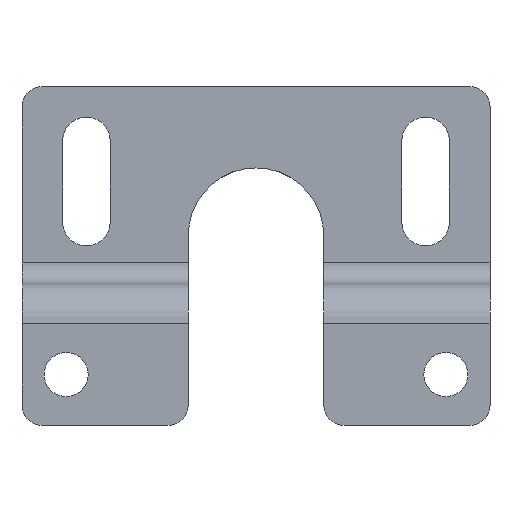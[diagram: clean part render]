
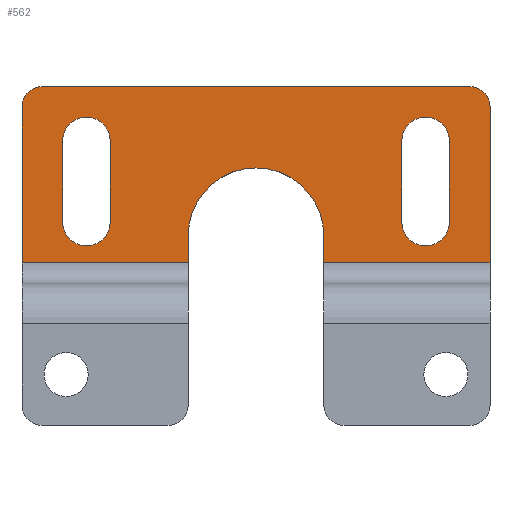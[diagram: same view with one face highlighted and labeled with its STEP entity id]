
A CAD part, top view. The second image highlights one B-rep face of the part: STEP entity #562.
In plain terms, the highlighted planar face has unit normal (0, 0, 1).
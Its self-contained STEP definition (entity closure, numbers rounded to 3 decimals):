
#384=CARTESIAN_POINT('',(31.5,29.,-14.0));
#385=VERTEX_POINT('',#384);
#392=CARTESIAN_POINT('',(34.5,26.,-14.0));
#393=VERTEX_POINT('',#392);
#394=CARTESIAN_POINT('',(31.5,26.,-14.0));
#395=DIRECTION('',(0.0,0.0,-1.));
#396=DIRECTION('',(0.707,0.707,0.0));
#397=AXIS2_PLACEMENT_3D('',#394,#395,#396);
#398=CIRCLE('',#397,3.);
#399=EDGE_CURVE('',#385,#393,#398,.T.);
#410=CARTESIAN_POINT('',(-34.5,-3.,-14.0));
#411=DIRECTION('',(0.0,0.0,1.0));
#412=DIRECTION('',(1.0,0.0,0.0));
#413=AXIS2_PLACEMENT_3D('',#410,#411,#412);
#414=PLANE('',#413);
#415=ORIENTED_EDGE('',*,*,#399,.F.);
#416=CARTESIAN_POINT('',(-31.5,29.,-14.0));
#417=VERTEX_POINT('',#416);
#418=CARTESIAN_POINT('',(-31.5,29.,-14.0));
#419=DIRECTION('',(1.0,0.0,0.0));
#420=VECTOR('',#419,63.0);
#421=LINE('',#418,#420);
#422=EDGE_CURVE('',#417,#385,#421,.T.);
#423=ORIENTED_EDGE('',*,*,#422,.F.);
#424=CARTESIAN_POINT('',(-34.5,26.,-14.0));
#425=VERTEX_POINT('',#424);
#426=CARTESIAN_POINT('',(-31.5,26.,-14.0));
#427=DIRECTION('',(0.0,0.0,-1.));
#428=DIRECTION('',(-0.707,0.707,0.0));
#429=AXIS2_PLACEMENT_3D('',#426,#427,#428);
#430=CIRCLE('',#429,3.);
#431=EDGE_CURVE('',#425,#417,#430,.T.);
#432=ORIENTED_EDGE('',*,*,#431,.F.);
#433=CARTESIAN_POINT('',(-34.5,3.,-14.));
#434=VERTEX_POINT('',#433);
#435=CARTESIAN_POINT('',(-34.5,3.,-14.));
#436=DIRECTION('',(0.0,1.0,0.0));
#437=VECTOR('',#436,23.);
#438=LINE('',#435,#437);
#439=EDGE_CURVE('',#434,#425,#438,.T.);
#440=ORIENTED_EDGE('',*,*,#439,.F.);
#441=CARTESIAN_POINT('',(-10.0,3.,-14.));
#442=VERTEX_POINT('',#441);
#443=CARTESIAN_POINT('',(-10.0,3.,-14.));
#444=DIRECTION('',(-1.0,0.0,0.0));
#445=VECTOR('',#444,24.5);
#446=LINE('',#443,#445);
#447=EDGE_CURVE('',#442,#434,#446,.T.);
#448=ORIENTED_EDGE('',*,*,#447,.F.);
#449=CARTESIAN_POINT('',(-10.0,7.,-14.0));
#450=VERTEX_POINT('',#449);
#451=CARTESIAN_POINT('',(-10.0,3.,-14.));
#452=DIRECTION('',(0.0,1.0,0.0));
#453=VECTOR('',#452,4.);
#454=LINE('',#451,#453);
#455=EDGE_CURVE('',#442,#450,#454,.T.);
#456=ORIENTED_EDGE('',*,*,#455,.T.);
#457=CARTESIAN_POINT('',(10.0,7.,-14.0));
#458=VERTEX_POINT('',#457);
#459=CARTESIAN_POINT('',(0.0,7.,-14.0));
#460=DIRECTION('',(0.0,0.0,-1.0));
#461=DIRECTION('',(1.0,0.0,0.0));
#462=AXIS2_PLACEMENT_3D('',#459,#460,#461);
#463=CIRCLE('',#462,10.0);
#464=EDGE_CURVE('',#450,#458,#463,.T.);
#465=ORIENTED_EDGE('',*,*,#464,.T.);
#466=CARTESIAN_POINT('',(10.,3.,-14.));
#467=VERTEX_POINT('',#466);
#468=CARTESIAN_POINT('',(10.0,7.,-14.0));
#469=DIRECTION('',(0.0,-1.0,0.0));
#470=VECTOR('',#469,4.);
#471=LINE('',#468,#470);
#472=EDGE_CURVE('',#458,#467,#471,.T.);
#473=ORIENTED_EDGE('',*,*,#472,.T.);
#474=CARTESIAN_POINT('',(34.5,3.,-14.));
#475=VERTEX_POINT('',#474);
#476=CARTESIAN_POINT('',(34.5,3.,-14.));
#477=DIRECTION('',(-1.0,0.0,0.0));
#478=VECTOR('',#477,24.5);
#479=LINE('',#476,#478);
#480=EDGE_CURVE('',#475,#467,#479,.T.);
#481=ORIENTED_EDGE('',*,*,#480,.F.);
#482=CARTESIAN_POINT('',(34.5,3.,-14.));
#483=DIRECTION('',(0.0,1.0,0.0));
#484=VECTOR('',#483,23.);
#485=LINE('',#482,#484);
#486=EDGE_CURVE('',#475,#393,#485,.T.);
#487=ORIENTED_EDGE('',*,*,#486,.T.);
#488=EDGE_LOOP('',(#415,#423,#432,#440,#448,#456,#465,#473,#481,#487));
#489=FACE_OUTER_BOUND('',#488,.T.);
#490=CARTESIAN_POINT('',(-28.5,9.,-14.0));
#491=VERTEX_POINT('',#490);
#492=CARTESIAN_POINT('',(-28.5,21.,-14.0));
#493=VERTEX_POINT('',#492);
#494=CARTESIAN_POINT('',(-28.5,9.,-14.0));
#495=DIRECTION('',(0.0,1.0,0.0));
#496=VECTOR('',#495,12.);
#497=LINE('',#494,#496);
#498=EDGE_CURVE('',#491,#493,#497,.T.);
#499=ORIENTED_EDGE('',*,*,#498,.T.);
#500=CARTESIAN_POINT('',(-21.5,21.,-14.0));
#501=VERTEX_POINT('',#500);
#502=CARTESIAN_POINT('',(-25.0,21.,-14.0));
#503=DIRECTION('',(0.0,0.0,-1.0));
#504=DIRECTION('',(1.0,0.0,0.0));
#505=AXIS2_PLACEMENT_3D('',#502,#503,#504);
#506=CIRCLE('',#505,3.5);
#507=EDGE_CURVE('',#493,#501,#506,.T.);
#508=ORIENTED_EDGE('',*,*,#507,.T.);
#509=CARTESIAN_POINT('',(-21.5,9.,-14.0));
#510=VERTEX_POINT('',#509);
#511=CARTESIAN_POINT('',(-21.5,21.,-14.0));
#512=DIRECTION('',(0.0,-1.0,0.0));
#513=VECTOR('',#512,12.);
#514=LINE('',#511,#513);
#515=EDGE_CURVE('',#501,#510,#514,.T.);
#516=ORIENTED_EDGE('',*,*,#515,.T.);
#517=CARTESIAN_POINT('',(-25.0,9.,-14.0));
#518=DIRECTION('',(0.0,0.0,-1.0));
#519=DIRECTION('',(-1.0,0.0,0.0));
#520=AXIS2_PLACEMENT_3D('',#517,#518,#519);
#521=CIRCLE('',#520,3.5);
#522=EDGE_CURVE('',#510,#491,#521,.T.);
#523=ORIENTED_EDGE('',*,*,#522,.T.);
#524=EDGE_LOOP('',(#499,#508,#516,#523));
#525=FACE_BOUND('',#524,.T.);
#526=CARTESIAN_POINT('',(21.5,9.,-14.0));
#527=VERTEX_POINT('',#526);
#528=CARTESIAN_POINT('',(21.5,21.,-14.0));
#529=VERTEX_POINT('',#528);
#530=CARTESIAN_POINT('',(21.5,9.,-14.0));
#531=DIRECTION('',(0.0,1.0,0.0));
#532=VECTOR('',#531,12.);
#533=LINE('',#530,#532);
#534=EDGE_CURVE('',#527,#529,#533,.T.);
#535=ORIENTED_EDGE('',*,*,#534,.T.);
#536=CARTESIAN_POINT('',(28.5,21.,-14.0));
#537=VERTEX_POINT('',#536);
#538=CARTESIAN_POINT('',(25.0,21.,-14.0));
#539=DIRECTION('',(0.0,0.0,-1.0));
#540=DIRECTION('',(-1.0,0.0,0.0));
#541=AXIS2_PLACEMENT_3D('',#538,#539,#540);
#542=CIRCLE('',#541,3.5);
#543=EDGE_CURVE('',#529,#537,#542,.T.);
#544=ORIENTED_EDGE('',*,*,#543,.T.);
#545=CARTESIAN_POINT('',(28.5,9.,-14.0));
#546=VERTEX_POINT('',#545);
#547=CARTESIAN_POINT('',(28.5,21.,-14.0));
#548=DIRECTION('',(0.0,-1.0,0.0));
#549=VECTOR('',#548,12.);
#550=LINE('',#547,#549);
#551=EDGE_CURVE('',#537,#546,#550,.T.);
#552=ORIENTED_EDGE('',*,*,#551,.T.);
#553=CARTESIAN_POINT('',(25.0,9.,-14.0));
#554=DIRECTION('',(0.0,0.0,-1.0));
#555=DIRECTION('',(1.0,0.0,0.0));
#556=AXIS2_PLACEMENT_3D('',#553,#554,#555);
#557=CIRCLE('',#556,3.5);
#558=EDGE_CURVE('',#546,#527,#557,.T.);
#559=ORIENTED_EDGE('',*,*,#558,.T.);
#560=EDGE_LOOP('',(#535,#544,#552,#559));
#561=FACE_BOUND('',#560,.T.);
#562=ADVANCED_FACE('',(#489,#525,#561),#414,.T.);
